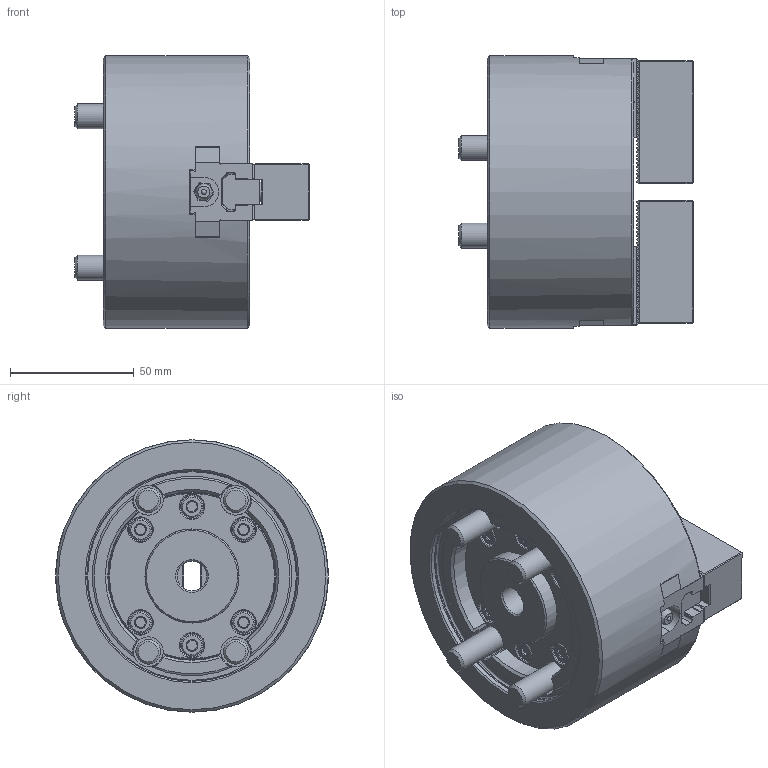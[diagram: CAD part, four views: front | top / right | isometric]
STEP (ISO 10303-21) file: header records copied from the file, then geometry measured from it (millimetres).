
FILE_DESCRIPTION (( 'STEP AP214' ), '1' );
FILE_NAME ('DT1_BT204_OUTSIDE_VIEW_HUL.STEP', '2024-05-08T23:20:23', ( '' ), ( '' ), 'SwSTEP 2.0', 'SolidWorks 2022', '' );
FILE_SCHEMA (( 'AUTOMOTIVE_DESIGN' ));
Length unit declared in the file: millimetre
Products named in the file (9): DT1_BT204_COVER^DT1-BT204_ﾃﾞﾌｫﾙﾄ; DT1_BT204_DRAWNUT^DT1-BT204_ﾃﾞﾌｫﾙﾄ; DT1_BT204_SOFTJAW^DT1-BT204_ﾃﾞﾌｫﾙﾄ; DT1_BT204_M4x8^DT1-BT204_ﾃﾞﾌｫﾙﾄ; DT1_BT204_M10x60^DT1-BT204_ﾃﾞﾌｫﾙﾄ; DT1_BT204_TNUT^DT1-BT204_ﾃﾞﾌｫﾙﾄ; DT1_BT204_M8x20^DT1-BT204_ﾃﾞﾌｫﾙﾄ; DT1_BT204_BASE^DT1-BT204_ﾃﾞﾌｫﾙﾄ; DT1_BT204_OUTSIDE_VIEW_HUL
Assembly tree (19 placements, depth 2):
  DT1_BT204_OUTSIDE_VIEW_HUL
    DT1_BT204_SOFTJAW^DT1-BT204_ﾃﾞﾌｫﾙﾄ  x2
    DT1_BT204_TNUT^DT1-BT204_ﾃﾞﾌｫﾙﾄ  x2
    DT1_BT204_DRAWNUT^DT1-BT204_ﾃﾞﾌｫﾙﾄ
    DT1_BT204_COVER^DT1-BT204_ﾃﾞﾌｫﾙﾄ
    DT1_BT204_BASE^DT1-BT204_ﾃﾞﾌｫﾙﾄ
    DT1_BT204_M4x8^DT1-BT204_ﾃﾞﾌｫﾙﾄ  x4
    DT1_BT204_M8x20^DT1-BT204_ﾃﾞﾌｫﾙﾄ  x4
    DT1_BT204_M10x60^DT1-BT204_ﾃﾞﾌｫﾙﾄ  x4
Bounding box: 94.5 x 110 x 110 mm (x, y, z)
Volume: 531554 mm3; surface area: 113412.9 mm2
Topology: 19 solids, 27 shells, 2293 faces, 6316 edges, 4161 vertices
Faces by surface type: plane 1632, cylinder 403, cone 131, bspline 108, torus 15, sphere 4
Full cylindrical faces by diameter (mm): 3.3 x4, 4 x4, 4.5 x4, 6.8 x4, 7.5 x4, 8 x4, 8.5 x8, 8.72 x6, 9.5 x6, 10 x4, 12 x5, 13.27 x4, 13.5 x4, 16.27 x4, 17 x4, 26 x1, 29 x2, 32.5 x1, 35.8 x1, 38 x2, 85 x1, 85.8 x1, 110 x1
Entity records: 61557 total; most frequent: CARTESIAN_POINT 16529, ORIENTED_EDGE 9808, DIRECTION 8183, EDGE_CURVE 4904, VECTOR 3695, LINE 3695, VERTEX_POINT 3298, AXIS2_PLACEMENT_3D 2244
